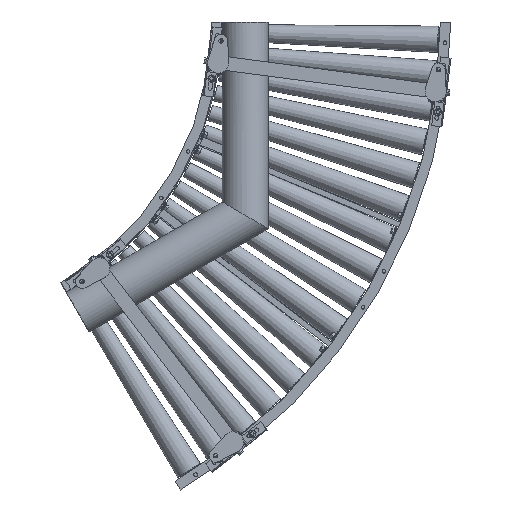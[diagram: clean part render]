
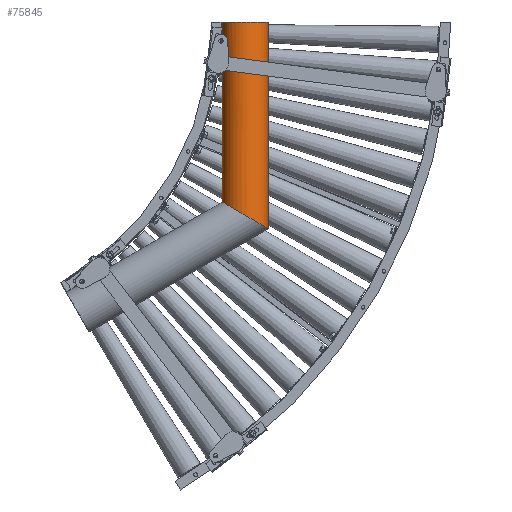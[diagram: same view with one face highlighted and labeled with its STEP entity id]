
A CAD part, front view. The second image highlights one B-rep face of the part: STEP entity #75845.
In plain terms, the highlighted cylindrical face has radius 67.024 mm (diameter 134.048 mm), a partial arc.
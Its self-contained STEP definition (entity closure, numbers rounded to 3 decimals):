
#4274 = VECTOR ( 'NONE', #80567, 1000. ) ;
#6582 = CARTESIAN_POINT ( 'NONE',  ( 967., -156.676, 0. ) ) ;
#8633 = LINE ( 'NONE', #50883, #4274 ) ;
#8985 = AXIS2_PLACEMENT_3D ( 'NONE', #6582, #25735, #50681 ) ;
#9998 = CARTESIAN_POINT ( 'NONE',  ( 900.7, -166.5, 0. ) ) ;
#11392 = CYLINDRICAL_SURFACE ( 'NONE', #89978, 67.024 ) ;
#12478 = EDGE_CURVE ( 'NONE', #91144, #105087, #32690, .T. ) ;
#15200 = EDGE_CURVE ( 'NONE', #55522, #114104, #61552, .T. ) ;
#16366 = EDGE_CURVE ( 'NONE', #114104, #91144, #60977, .T. ) ;
#16964 = ORIENTED_EDGE ( 'NONE', *, *, #15200, .F. ) ;
#25735 = DIRECTION ( 'NONE',  ( 0., 0., 1. ) ) ;
#29888 = DIRECTION ( 'NONE',  ( 0., 0., -1. ) ) ;
#30304 = CARTESIAN_POINT ( 'NONE',  ( 967., -156.676, 0. ) ) ;
#32690 =( BOUNDED_CURVE ( )  B_SPLINE_CURVE ( 3, ( #46401, #122328, #65139, #74787 ),
 .UNSPECIFIED., .F., .T. ) 
 B_SPLINE_CURVE_WITH_KNOTS ( ( 4, 4 ),
 ( 0.147, 2.994 ),
 .UNSPECIFIED. ) 
 CURVE ( )  GEOMETRIC_REPRESENTATION_ITEM ( )  RATIONAL_B_SPLINE_CURVE ( ( 1., 0.431, 0.431, 1. ) ) 
 REPRESENTATION_ITEM ( '' )  );
#39074 = ORIENTED_EDGE ( 'NONE', *, *, #12478, .F. ) ;
#46401 = CARTESIAN_POINT ( 'NONE',  ( 1033.3, -166.5, -596.576 ) ) ;
#50681 = DIRECTION ( 'NONE',  ( 1., 0., 0. ) ) ;
#50883 = CARTESIAN_POINT ( 'NONE',  ( 900.7, -166.5, 0. ) ) ;
#55522 = VERTEX_POINT ( 'NONE', #9998 ) ;
#59075 = DIRECTION ( 'NONE',  ( -1., 0., 0. ) ) ;
#60977 = LINE ( 'NONE', #117716, #83429 ) ;
#61552 = CIRCLE ( 'NONE', #8985, 67.024 ) ;
#64478 = ORIENTED_EDGE ( 'NONE', *, *, #16366, .F. ) ;
#65139 = CARTESIAN_POINT ( 'NONE',  ( 915.73, -267.933, -528.697 ) ) ;
#67557 = EDGE_LOOP ( 'NONE', ( #64478, #16964, #106999, #39074 ) ) ;
#74787 = CARTESIAN_POINT ( 'NONE',  ( 900.7, -166.5, -520.019 ) ) ;
#75845 = ADVANCED_FACE ( 'NONE', ( #118882 ), #11392, .T. ) ;
#80567 = DIRECTION ( 'NONE',  ( 0., 0., -1. ) ) ;
#83429 = VECTOR ( 'NONE', #88618, 1000. ) ;
#86467 = CARTESIAN_POINT ( 'NONE',  ( 1033.3, -166.5, -596.576 ) ) ;
#88618 = DIRECTION ( 'NONE',  ( 0., 0., -1. ) ) ;
#89978 = AXIS2_PLACEMENT_3D ( 'NONE', #30304, #29888, #59075 ) ;
#91144 = VERTEX_POINT ( 'NONE', #86467 ) ;
#105087 = VERTEX_POINT ( 'NONE', #109345 ) ;
#106999 = ORIENTED_EDGE ( 'NONE', *, *, #118073, .T. ) ;
#109345 = CARTESIAN_POINT ( 'NONE',  ( 900.7, -166.5, -520.019 ) ) ;
#112594 = CARTESIAN_POINT ( 'NONE',  ( 1033.3, -166.5, 0. ) ) ;
#114104 = VERTEX_POINT ( 'NONE', #112594 ) ;
#117716 = CARTESIAN_POINT ( 'NONE',  ( 1033.3, -166.5, 0. ) ) ;
#118073 = EDGE_CURVE ( 'NONE', #55522, #105087, #8633, .T. ) ;
#118882 = FACE_OUTER_BOUND ( 'NONE', #67557, .T. ) ;
#122328 = CARTESIAN_POINT ( 'NONE',  ( 1018.27, -267.933, -587.899 ) ) ;
